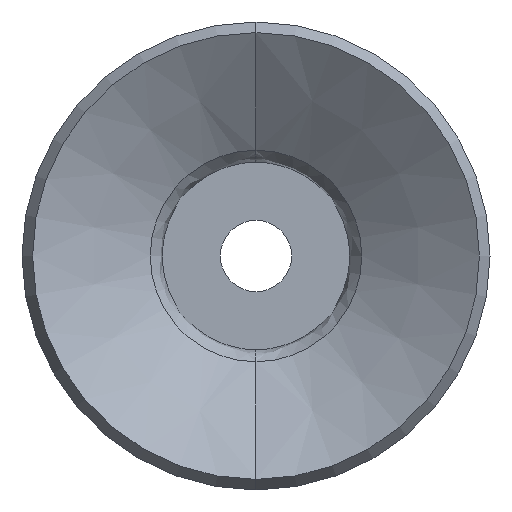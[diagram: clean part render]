
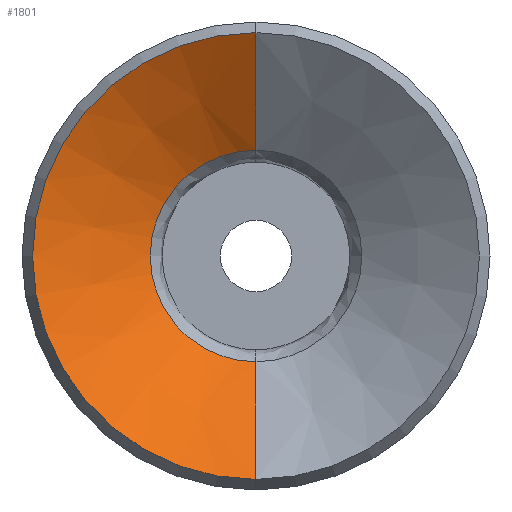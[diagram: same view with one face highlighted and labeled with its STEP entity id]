
A CAD part, front view. The second image highlights one B-rep face of the part: STEP entity #1801.
In plain terms, the highlighted conical face has half-angle 55.493 degrees and reference radius 5.65 mm.
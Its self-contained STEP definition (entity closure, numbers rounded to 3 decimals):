
#21 = VECTOR ( 'NONE', #1172, 1000. ) ;
#87 = ORIENTED_EDGE ( 'NONE', *, *, #1637, .T. ) ;
#160 = AXIS2_PLACEMENT_3D ( 'NONE', #1306, #171, #220 ) ;
#171 = DIRECTION ( 'NONE',  ( 0., -1., 0. ) ) ;
#220 = DIRECTION ( 'NONE',  ( 0., 0., -1. ) ) ;
#233 = EDGE_CURVE ( 'NONE', #763, #1007, #442, .T. ) ;
#286 = VERTEX_POINT ( 'NONE', #620 ) ;
#392 = CIRCLE ( 'NONE', #1595, 11.933 ) ;
#442 = LINE ( 'NONE', #1746, #21 ) ;
#467 = CARTESIAN_POINT ( 'NONE',  ( 0., -29.681, 0. ) ) ;
#620 = CARTESIAN_POINT ( 'NONE',  ( 0., -34., 11.933 ) ) ;
#675 = VECTOR ( 'NONE', #1422, 1000. ) ;
#763 = VERTEX_POINT ( 'NONE', #1636 ) ;
#863 = CIRCLE ( 'NONE', #962, 5.65 ) ;
#927 = EDGE_LOOP ( 'NONE', ( #87, #1218, #1124, #1078 ) ) ;
#962 = AXIS2_PLACEMENT_3D ( 'NONE', #467, #1407, #1499 ) ;
#1007 = VERTEX_POINT ( 'NONE', #1109 ) ;
#1078 = ORIENTED_EDGE ( 'NONE', *, *, #233, .F. ) ;
#1109 = CARTESIAN_POINT ( 'NONE',  ( 0., -34., -11.933 ) ) ;
#1114 = CARTESIAN_POINT ( 'NONE',  ( 0., -29.681, 5.65 ) ) ;
#1115 = FACE_OUTER_BOUND ( 'NONE', #927, .T. ) ;
#1124 = ORIENTED_EDGE ( 'NONE', *, *, #1403, .T. ) ;
#1172 = DIRECTION ( 'NONE',  ( 0., -0.567, -0.824 ) ) ;
#1218 = ORIENTED_EDGE ( 'NONE', *, *, #1455, .T. ) ;
#1306 = CARTESIAN_POINT ( 'NONE',  ( 0., -29.681, 0. ) ) ;
#1403 = EDGE_CURVE ( 'NONE', #286, #1007, #392, .T. ) ;
#1407 = DIRECTION ( 'NONE',  ( 0., 1., 0. ) ) ;
#1419 = LINE ( 'NONE', #1588, #675 ) ;
#1422 = DIRECTION ( 'NONE',  ( 0., -0.567, 0.824 ) ) ;
#1455 = EDGE_CURVE ( 'NONE', #1842, #286, #1419, .T. ) ;
#1499 = DIRECTION ( 'NONE',  ( 0., 0., -1. ) ) ;
#1588 = CARTESIAN_POINT ( 'NONE',  ( 0., -29.681, 5.65 ) ) ;
#1595 = AXIS2_PLACEMENT_3D ( 'NONE', #1701, #1611, #1596 ) ;
#1596 = DIRECTION ( 'NONE',  ( 0., 0., 1. ) ) ;
#1611 = DIRECTION ( 'NONE',  ( 0., -1., 0. ) ) ;
#1636 = CARTESIAN_POINT ( 'NONE',  ( 0., -29.681, -5.65 ) ) ;
#1637 = EDGE_CURVE ( 'NONE', #763, #1842, #863, .T. ) ;
#1701 = CARTESIAN_POINT ( 'NONE',  ( 0., -34., 0. ) ) ;
#1746 = CARTESIAN_POINT ( 'NONE',  ( 0., -29.681, -5.65 ) ) ;
#1768 = CONICAL_SURFACE ( 'NONE', #160, 5.65, 0.969 ) ;
#1801 = ADVANCED_FACE ( 'NONE', ( #1115 ), #1768, .F. ) ;
#1842 = VERTEX_POINT ( 'NONE', #1114 ) ;
